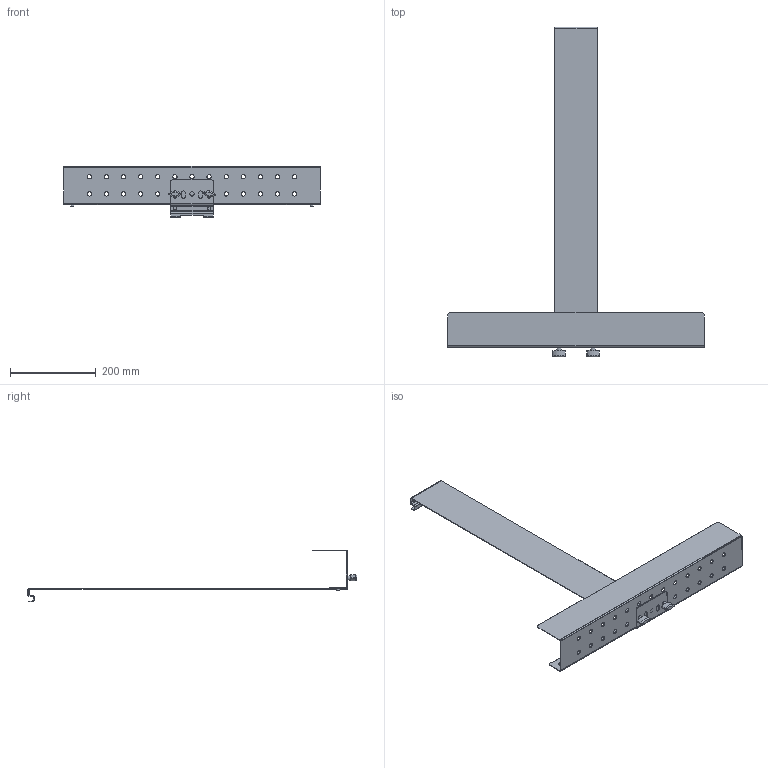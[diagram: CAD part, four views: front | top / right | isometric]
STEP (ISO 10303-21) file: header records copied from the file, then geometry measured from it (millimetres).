
FILE_DESCRIPTION(/* description */ (''),/* implementation_level */ '2;1');
FILE_NAME(/* name */ 'D:\DABSTORY\Folder dabstory pulpit - 16.03.2020\1. Oferta łazienkowa\Prototypy\Półka na kabinę prysznicową LOGAN\Półka na kabinę prysznicową LOGAN 60 cm\Półka na kabine prysznicową LOGAN 60 cm.stp',/* time_stamp */ '2021-05-19T13:52:07+02:00',/* author */ ('Verical'),/* organization */ (''),/* preprocessor_version */ 'ST-DEVELOPER v17',/* originating_system */ 'Autodesk Inventor 2018',/* authorisation */ '');
FILE_SCHEMA (('AUTOMOTIVE_DESIGN { 1 0 10303 214 3 1 1 }'));
Length unit declared in the file: millimetre
Products named in the file (1): Półka na kabine prysznicową L
OGAN 60 cm
Bounding box: 600 x 771.4 x 121 mm (x, y, z)
Volume: 360453.8 mm3; surface area: 404999.5 mm2
Topology: 1 solids, 3 shells, 219 faces, 556 edges, 340 vertices
Faces by surface type: plane 111, cylinder 84, torus 12, cone 8, bspline 4
Full cylindrical faces by diameter (mm): 4.917 x2, 6 x2, 7.1 x4, 8 x4, 10 x26, 11 x2
Entity records: 7093 total; most frequent: CARTESIAN_POINT 1478, DIRECTION 1210, ORIENTED_EDGE 1100, EDGE_CURVE 550, AXIS2_PLACEMENT_3D 462, VERTEX_POINT 340, EDGE_LOOP 286, LINE 286
